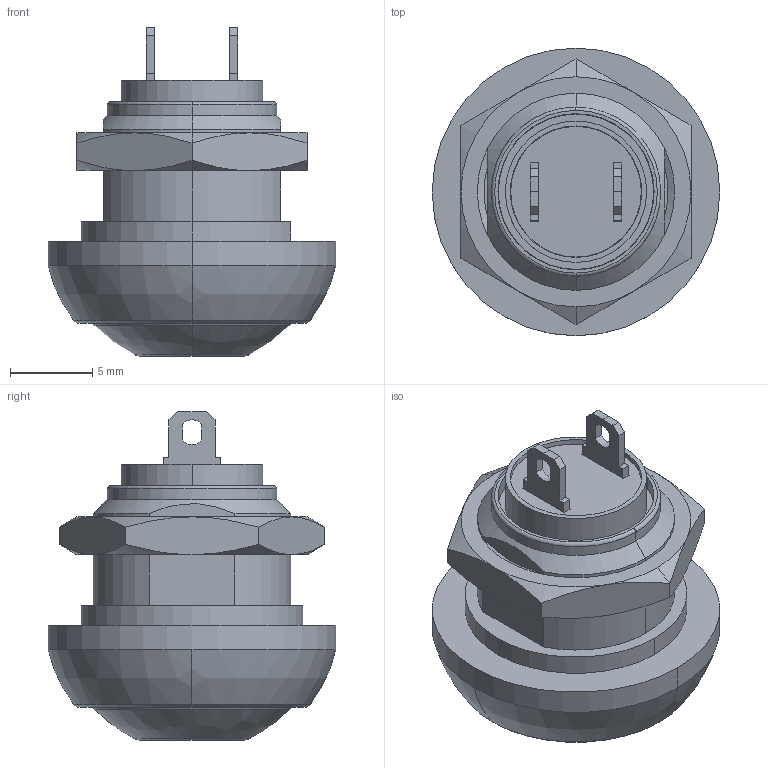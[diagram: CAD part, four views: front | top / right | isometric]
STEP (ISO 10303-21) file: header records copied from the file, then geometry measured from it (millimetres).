
FILE_DESCRIPTION(('STEP AP214'),'1');
FILE_NAME(' ',' ',('TraceParts'),('TraceParts S.A.'),'XStep 1.0',' ',' ');
FILE_SCHEMA(('automotive_design'));
Length unit declared in the file: millimetre
Products named in the file (2): ASM
Bounding box: 17.5 x 17.5 x 20 mm (x, y, z)
Volume: 1523 mm3; surface area: 2279.2 mm2
Topology: 2 solids, 2 shells, 224 faces, 566 edges, 350 vertices
Faces by surface type: plane 119, cylinder 49, cone 32, sphere 12, torus 10, bspline 2
Entity records: 6870 total; most frequent: CARTESIAN_POINT 1436, DIRECTION 1148, ORIENTED_EDGE 1116, EDGE_CURVE 558, AXIS2_PLACEMENT_3D 420, VERTEX_POINT 350, LINE 308, VECTOR 308
